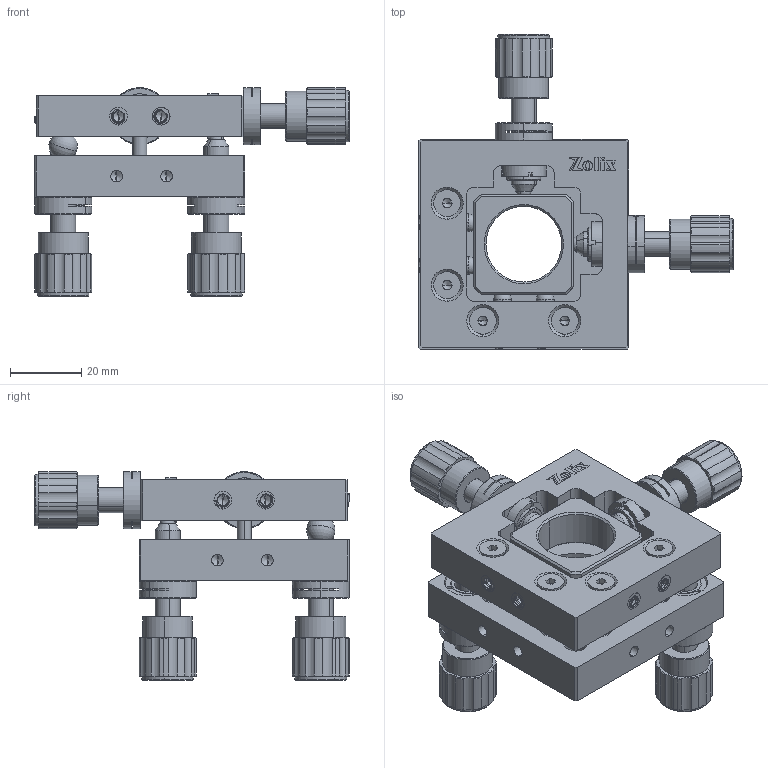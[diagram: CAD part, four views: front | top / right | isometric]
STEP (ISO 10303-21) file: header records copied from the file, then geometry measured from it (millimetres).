
FILE_DESCRIPTION (( 'STEP AP203' ), '1' );
FILE_NAME ('LM20-4-LBE.STEP', '2022-07-18T06:55:31', ( '' ), ( '' ), 'SwSTEP 2.0', 'SolidWorks 2021', '' );
FILE_SCHEMA (( 'CONFIG_CONTROL_DESIGN' ));
Length unit declared in the file: millimetre
Products named in the file (1): LM20-4-LBE
Bounding box: 88.36 x 88.36 x 58.55 mm (x, y, z)
Volume: 77487.6 mm3; surface area: 45924.5 mm2
Topology: 54 solids, 54 shells, 1407 faces, 3474 edges, 2148 vertices
Faces by surface type: plane 649, cylinder 376, cone 336, torus 20, sphere 18, bspline 8
Entity records: 51202 total; most frequent: CARTESIAN_POINT 17746, DIRECTION 7253, ORIENTED_EDGE 6730, EDGE_CURVE 3365, AXIS2_PLACEMENT_3D 2704, VERTEX_POINT 2133, VECTOR 1845, LINE 1845
